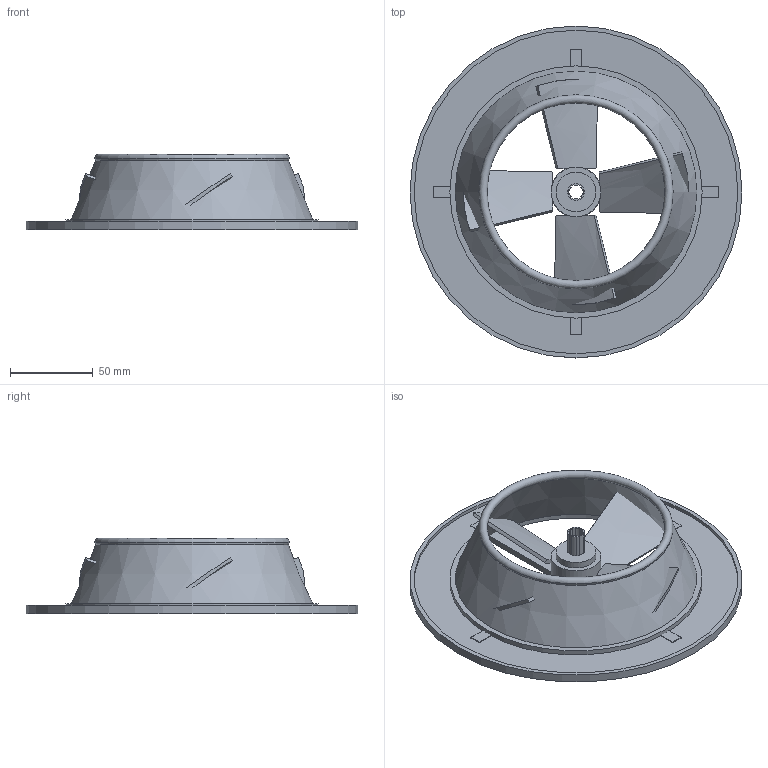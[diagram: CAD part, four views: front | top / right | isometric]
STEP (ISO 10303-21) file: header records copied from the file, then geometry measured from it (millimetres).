
FILE_DESCRIPTION(('Open CASCADE Model'),'2;1');
FILE_NAME('Open CASCADE Shape Model','2026-10-27T17:14:30',('Author'),( 'Open CASCADE'),'Open CASCADE STEP processor 8.0','build123d', 'Unknown');
FILE_SCHEMA(('AUTOMOTIVE_DESIGN { 1 0 10303 214 1 1 1 1 }'));
Length unit declared in the file: millimetre
Products named in the file (4): COMPOUND
Assembly tree (3 placements, depth 2):
  COMPOUND
    COMPOUND
    COMPOUND
    COMPOUND
Bounding box: 200 x 200 x 45.5 mm (x, y, z)
Volume: 145107.8 mm3; surface area: 107541.4 mm2
Topology: 3 solids, 3 shells, 95 faces, 264 edges, 175 vertices
Faces by surface type: plane 52, cylinder 23, bspline 16, torus 2, cone 2
Full cylindrical faces by diameter (mm): 10 x2, 24 x1, 30 x2, 152 x1, 195 x1, 200 x1
Entity records: 7482 total; most frequent: CARTESIAN_POINT 2620, DIRECTION 732, ORIENTED_EDGE 528, PCURVE 528, DEFINITIONAL_REPRESENTATION 528, LINE 417, VECTOR 417, B_SPLINE_CURVE_WITH_KNOTS 270
